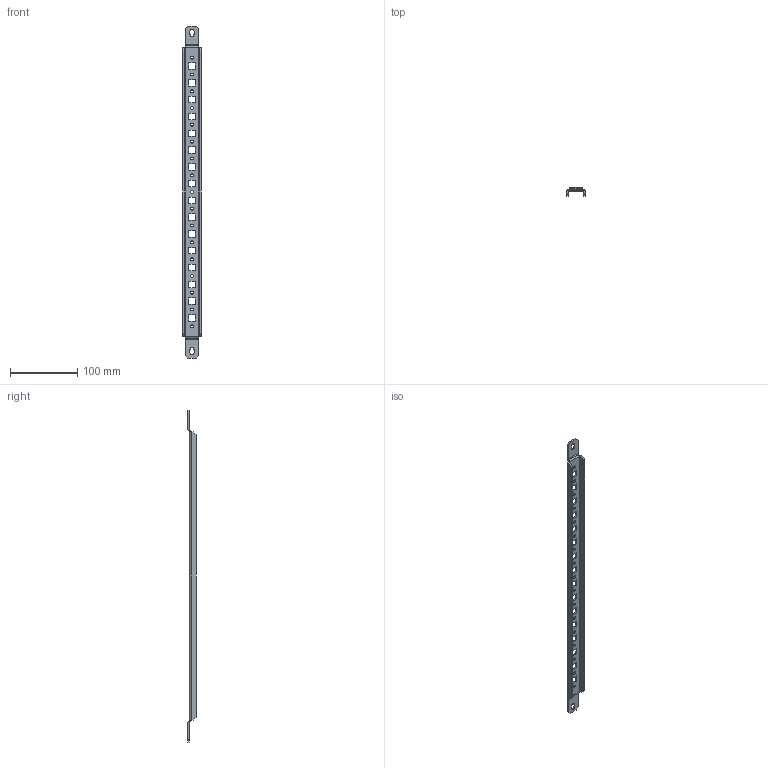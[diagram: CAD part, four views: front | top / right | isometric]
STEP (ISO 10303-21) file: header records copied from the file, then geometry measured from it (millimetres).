
FILE_DESCRIPTION (( 'STEP AP203' ), '1' );
FILE_NAME ('VB 60 GE Ðåéêà äëÿ ãëóõîé äâåðè v2.STEP', '2021-07-07T13:53:40', ( '' ), ( '' ), 'SwSTEP 2.0', 'SolidWorks 2018', '' );
FILE_SCHEMA (( 'CONFIG_CONTROL_DESIGN' ));
Length unit declared in the file: millimetre
Products named in the file (1): VB 60 GE Ðåéêà äëÿ ãëóõîé äâåðè v2
Bounding box: 27.5 x 12.42 x 494.31 mm (x, y, z)
Volume: 34509.5 mm3; surface area: 38401.6 mm2
Topology: 1 solids, 1 shells, 174 faces, 468 edges, 296 vertices
Faces by surface type: plane 122, cylinder 52
Entity records: 5589 total; most frequent: CARTESIAN_POINT 939, ORIENTED_EDGE 936, DIRECTION 922, EDGE_CURVE 468, LINE 364, VECTOR 364, VERTEX_POINT 296, AXIS2_PLACEMENT_3D 279
